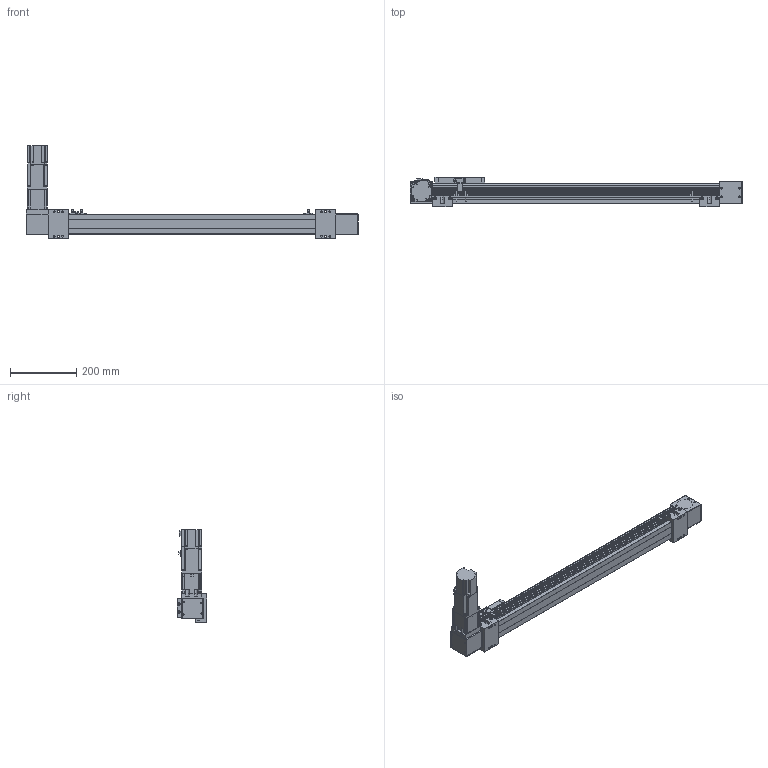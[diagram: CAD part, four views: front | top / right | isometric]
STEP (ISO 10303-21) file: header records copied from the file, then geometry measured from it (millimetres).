
FILE_DESCRIPTION(/* description */ ('STEP AP203'),/* implementation_level */ '2;1');
FILE_NAME(/* name */ 'SK60-P13-S700-BL-T40-C1-N(0)',/* time_stamp */ '2023-04-06T03:36:09+02:00',/* author */ ('License CC BY-ND 4.0'),/* organization */ ('CADENAS'),/* preprocessor_version */ 'ST-DEVELOPER v19.3',/* originating_system */ 'PARTsolutions',/* authorisation */ ' ');
FILE_SCHEMA (('CONFIG_CONTROL_DESIGN'));
Length unit declared in the file: millimetre
Products named in the file (11): SK60-P13-S700-BL-T40-C1-N(0); PSC140-sensor; SK60-S450_seat; SK60-S450-BL-C1_slider; SK60_body3; SK60_body6; SK60-BL_body2; T40-p1; SK60_body5; SK60_body4; SK60-S700-BL-C1_body
Assembly tree (17 placements, depth 2):
  SK60-P13-S700-BL-T40-C1-N(0)
    PSC140-sensor  x3
    SK60-S450_seat  x2
    SK60-S450-BL-C1_slider
    SK60_body3  x3
    SK60_body6  x2
    SK60-BL_body2  x2
    T40-p1
    SK60_body5
    SK60_body4
    SK60-S700-BL-C1_body
Bounding box: 1000 x 90 x 278.2 mm (x, y, z)
Volume: 4009310.7 mm3; surface area: 567400.1 mm2
Topology: 17 solids, 21 shells, 834 faces, 2109 edges, 1394 vertices
Faces by surface type: plane 544, cylinder 266, cone 22, torus 2
Full cylindrical faces by diameter (mm): 2.8 x3, 3.3 x4, 4.2 x8, 4.5 x26, 4.6 x3, 4.917 x16, 5 x2, 5.478 x4, 5.5 x19, 6.5 x4, 8 x4, 8.5 x4, 9.988 x4, 10 x8, 13.556 x1, 14 x1, 14.586 x1, 19.692 x1, 38.432 x2, 43 x1, 44 x3, 47 x2, 50 x2
Entity records: 19371 total; most frequent: DIRECTION 3292, CARTESIAN_POINT 3289, ORIENTED_EDGE 3050, EDGE_CURVE 1525, AXIS2_PLACEMENT_3D 1100, LINE 1092, VECTOR 1092, VERTEX_POINT 1077
